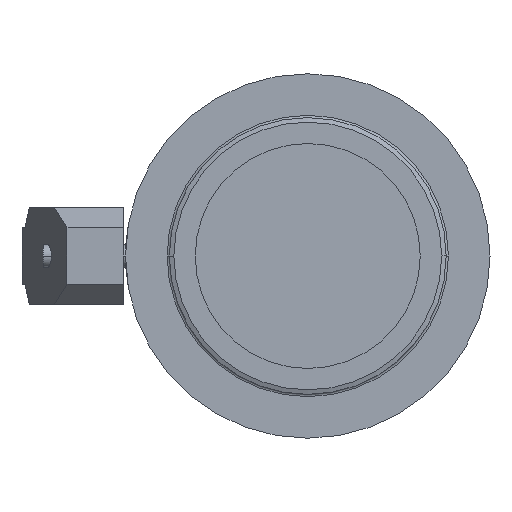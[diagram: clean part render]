
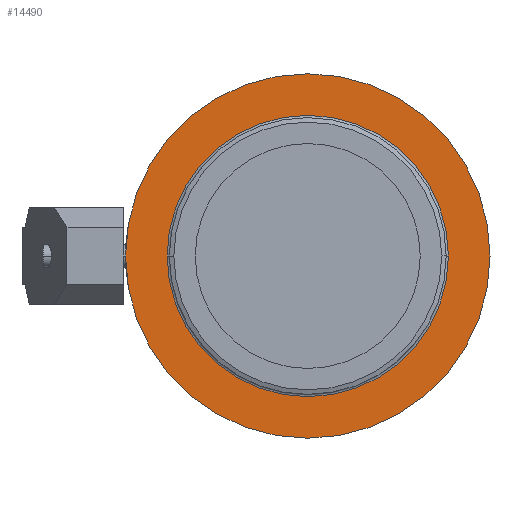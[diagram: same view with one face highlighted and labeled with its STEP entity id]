
A CAD part, left-side view. The second image highlights one B-rep face of the part: STEP entity #14490.
In plain terms, the highlighted planar face has unit normal (-1, 0, 0).
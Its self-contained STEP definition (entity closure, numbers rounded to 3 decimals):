
#11510=CARTESIAN_POINT('',(207.654,586.442,0.));
#11520=VERTEX_POINT('',#11510);
#11550=CARTESIAN_POINT('',(207.654,667.442,0.));
#11560=DIRECTION('',(1.,0.,0.));
#11570=DIRECTION('',(0.,1.,0.));
#11580=AXIS2_PLACEMENT_3D('',#11550,#11560,#11570);
#11590=CIRCLE('',#11580,81.);
#11600=CARTESIAN_POINT('',(207.654,748.442,
0.));
#11610=VERTEX_POINT('',#11600);
#11620=EDGE_CURVE('',#11610,#11520,#11590,.T.);
#14240=CARTESIAN_POINT('',(207.654,746.092,0.));
#14250=DIRECTION('',(-1.,0.,0.));
#14260=DIRECTION('',(0.,-1.,0.));
#14270=AXIS2_PLACEMENT_3D('',#14240,#14250,#14260);
#14280=PLANE('',#14270);
#14290=CARTESIAN_POINT('',(207.654,667.442,0.));
#14300=DIRECTION('',(1.,0.,0.));
#14310=DIRECTION('',(0.,1.,0.));
#14320=AXIS2_PLACEMENT_3D('',#14290,#14300,#14310);
#14330=CIRCLE('',#14320,62.5);
#14340=CARTESIAN_POINT('',(207.654,729.942,0.));
#14350=VERTEX_POINT('',#14340);
#14360=CARTESIAN_POINT('',(207.654,604.942,0.));
#14370=VERTEX_POINT('',#14360);
#14380=EDGE_CURVE('',#14350,#14370,#14330,.T.);
#14390=ORIENTED_EDGE('',*,*,#14380,.T.);
#14400=EDGE_CURVE('',#14370,#14350,#14330,.T.);
#14410=ORIENTED_EDGE('',*,*,#14400,.T.);
#14420=EDGE_LOOP('',(#14410,#14390));
#14430=FACE_BOUND('',#14420,.T.);
#14440=ORIENTED_EDGE('',*,*,#11620,.F.);
#14450=EDGE_CURVE('',#11520,#11610,#11590,.T.);
#14460=ORIENTED_EDGE('',*,*,#14450,.F.);
#14470=EDGE_LOOP('',(#14460,#14440));
#14480=FACE_OUTER_BOUND('',#14470,.T.);
#14490=ADVANCED_FACE('',(#14430,#14480),#14280,.T.);
